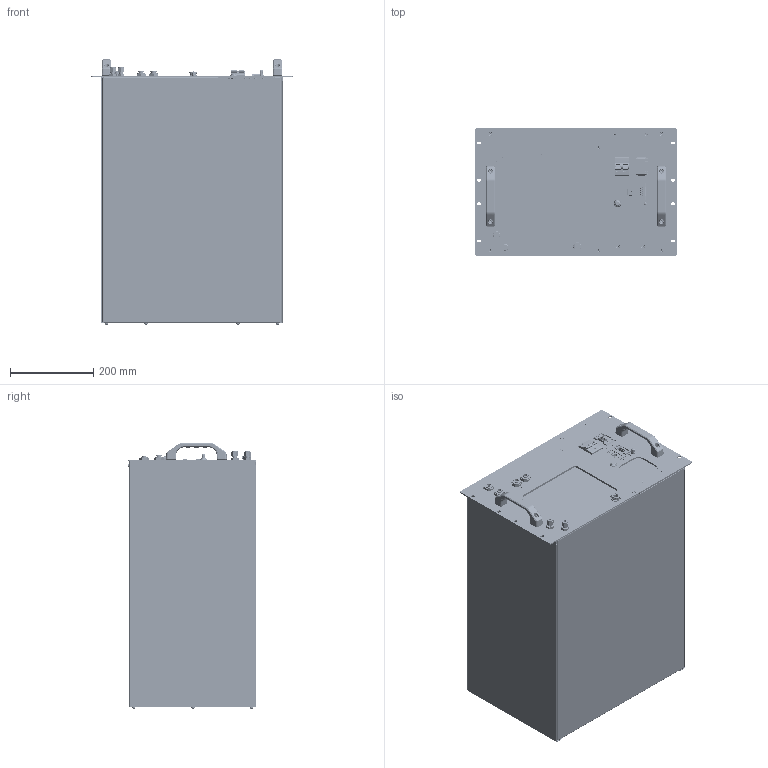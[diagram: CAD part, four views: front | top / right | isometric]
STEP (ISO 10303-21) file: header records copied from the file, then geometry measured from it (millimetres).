
FILE_DESCRIPTION(/* description */ ('EL 2.1 WATER COOLED - ASS. DRAWING'),/* implementation_level */ '2;1');
FILE_NAME(/* name */ '\\actasrv3\Enapter\2_Products_Engineering\R&D\EL21 water-cooled\1_Mechanical\1_CAD\ELE21-DRW-A2000-REV02.stp',/* time_stamp */ '2020-11-27T10:55:23+01:00',/* author */ ('lorenzo.giobbi'),/* organization */ (''),/* preprocessor_version */ 'ST-DEVELOPER v18.1',/* originating_system */ 'Autodesk Inventor 2021',/* authorisation */ 'MOD');
FILE_SCHEMA (('AUTOMOTIVE_DESIGN { 1 0 10303 214 3 1 1 }'));
Products named in the file (48): ELE21-DRW-A2000-REV02; ELE21-DRW-A0013-REV02; ELE21-DRW-00022-REV01; ELE21-DRW-00079-REV01; ELE21-DRW-00019-REV06; ELE21-DRW-00065-REV02; ELE21-DRW-00021-REV04; ELE21-DRW-00018-REV02; CPC PLCD120M10; ABU 1010M; ABU 0808M; SS-400-61; ELE21-DRW-A0014-REV02; ELE21-DRW-00126-REV00; ISO 7046-1 - M4 x 8 - 4.8 - H; CPL100_040_50; CP100_030_50; 10447A1_M4_open; 10447A1_M6_X; 10447A1_M5_X; CP100_040_50; ISO 7046-1 - M4 x 10 - 4.8 - H; ISO 7046-1 - M4 x 10 - 4.8 - H_1; ELE21-DRW-A0001-REV02; ELE21-DRW-00011-REV04; ELE21-DRW-00063-REV00; RS 700-1962; RS 700-1968; RS 700-1971; RF Solutions ANT-24G-S18-SMAM; L-Com ECF504-SC6; ABB S202-C13; Phoenix Contact 0707264; RS 820-7596; Phoenix Contact 1840560; 10447A1_M4_X; ELE21-DRW-00078-REV00; ELE21-DRW-00013-REV01; ELE21-DRW-00049-REV00; ELE21-DRW-00050-REV00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
Assembly tree (145 placements, depth 4):
  ELE21-DRW-A2000-REV02
    ELE21-DRW-A0013-REV02
      ELE21-DRW-00022-REV01
      ELE21-DRW-00079-REV01
      ELE21-DRW-00019-REV06
      ELE21-DRW-00078-REV00
      ELE21-DRW-00021-REV04  x2
      ELE21-DRW-00065-REV02
      ELE21-DRW-00018-REV02
      CPC PLCD120M10
      ABU 1010M  x3
      ABU 0808M
      SS-400-61  x2
      ELE21-DRW-A0014-REV02
        ELE21-DRW-00126-REV00
        ISO 7046-1 - M4 x 8 - 4.8 - H  x10
      CPL100_040_50  x3
      10447A1_M4_X  x8
      CP100_040_50  x16
      10447A1_M4_open  x21
      CP100_030_50  x6
      10447A1_M5_X  x4
      10447A1_M6_X  x4
      ISO 7046-1 - M4 x 10 - 4.8 - H  x4
      ISO 7046-1 - M4 x 10 - 4.8 - H_1  x2
    ELE21-DRW-A0001-REV02
      ELE21-DRW-00011-REV04
      ELE21-DRW-00063-REV00
      RS 700-1962
      RS 700-1968
      RS 700-1971
      RF Solutions ANT-24G-S18-SMAM
      L-Com ECF504-SC6
      ABB S202-C13
      Phoenix Contact 0707264
      RS 820-7596
      Phoenix Contact 1840560
      10447A1_M4_X  x4
      ELE21-DRW-00078-REV00
      ELE21-DRW-00013-REV01
      ELE21-DRW-00049-REV00
      ELE21-DRW-00050-REV00
    ELE21-DRW-00103-REV01
    Elesa RHRG-1S_120_84  x2
    ELE21-DRW-00023-REV02
    DIN 9021 - 4,3  x2
    ISO 10511 - M4  x2
    ISO 4762 - M6 x 30  x4
    DIN 7985 (H) - M4x8-H  x7
    ISO 7046-1 - M4 x 12 - 4.8 - H  x10
Bounding box: 482 x 307.12 x 636.12 mm (x, y, z)
Volume: 2555406.5 mm3; surface area: 3083301.3 mm2
Topology: 150 solids, 150 shells, 10913 faces, 28582 edges, 18462 vertices
Faces by surface type: plane 6134, cylinder 2321, bspline 1222, cone 729, torus 425, sphere 82
Full cylindrical faces by diameter (mm): 0.434 x1, 0.457 x1, 1.27 x1, 1.6 x4, 2.286 x1, 2.5 x2, 2.8 x3, 3 x14, 3.175 x2, 3.2 x4, 3.242 x42, 3.4 x2, 3.5 x6, 3.571 x26, 3.6 x2, 3.65 x7, 3.7 x2, 3.8 x3, 4 x89, 4.1 x3, 4.134 x4, 4.2 x9, 4.3 x2, 4.5 x72, 4.775 x1, 4.826 x2, 4.917 x4, 5 x35, 5.45 x3, 5.461 x1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
Entity records: 312747 total; most frequent: CARTESIAN_POINT 93472, ORIENTED_EDGE 46776, DIRECTION 41312, EDGE_CURVE 23388, LINE 15394, VECTOR 15394, VERTEX_POINT 15115, AXIS2_PLACEMENT_3D 12959
